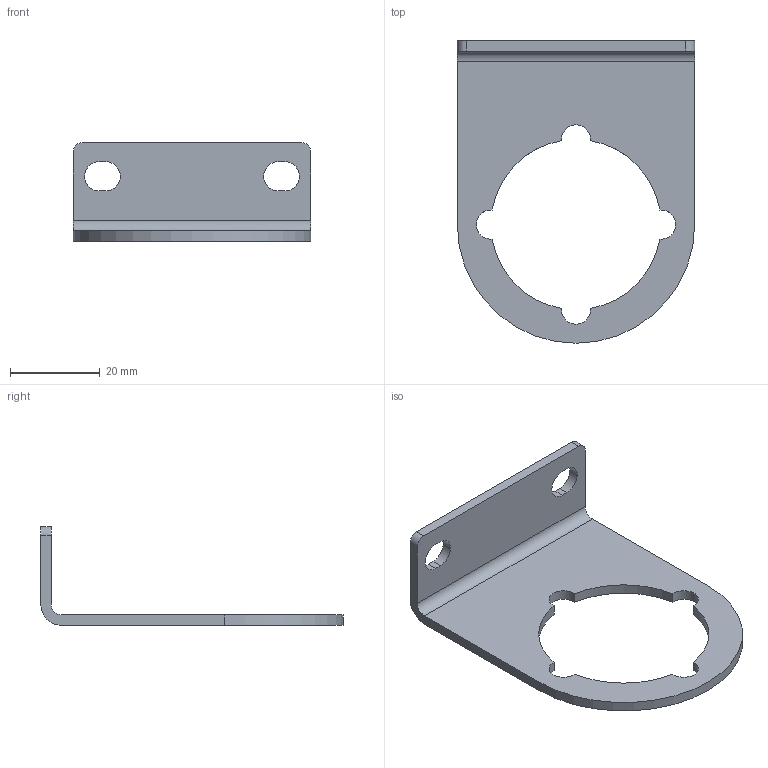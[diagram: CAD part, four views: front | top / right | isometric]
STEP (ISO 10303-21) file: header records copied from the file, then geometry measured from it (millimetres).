
FILE_DESCRIPTION((''),'2;1');
FILE_NAME('F:\AirCom-Produktdokumentation\Befestigungswinkel-Muttern\CAD\CAD AirCom\3D\B-SA-RV2.stp','2007-07-24T14:47:04',('Frank Schroers'),(''),'Autodesk Inventor 2008','Autodesk Inventor 2008','');
FILE_SCHEMA(('AUTOMOTIVE_DESIGN { 1 0 10303 214 1 1 1 1 }'));
Length unit declared in the file: millimetre
Products named in the file (1): B-SA-RV2
Bounding box: 53 x 67.5 x 22 mm (x, y, z)
Volume: 6787.8 mm3; surface area: 6905.8 mm2
Topology: 1 solids, 1 shells, 28 faces, 78 edges, 52 vertices
Faces by surface type: cylinder 17, plane 11
Entity records: 954 total; most frequent: DIRECTION 170, CARTESIAN_POINT 159, ORIENTED_EDGE 156, EDGE_CURVE 78, AXIS2_PLACEMENT_3D 63, VERTEX_POINT 52, VECTOR 44, LINE 44
